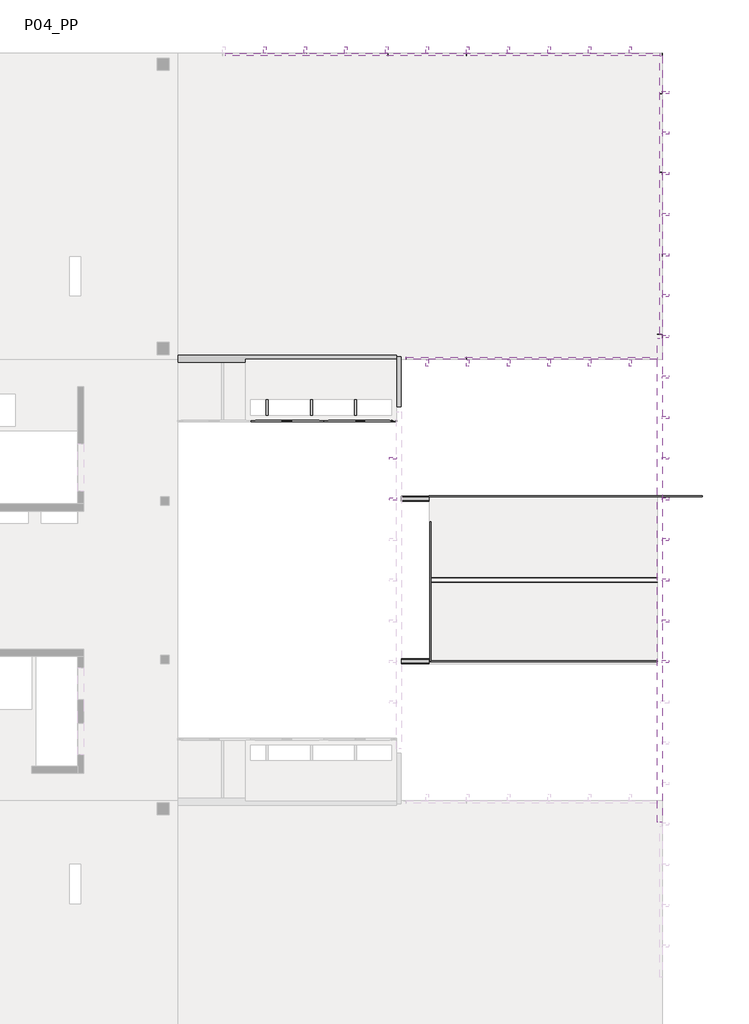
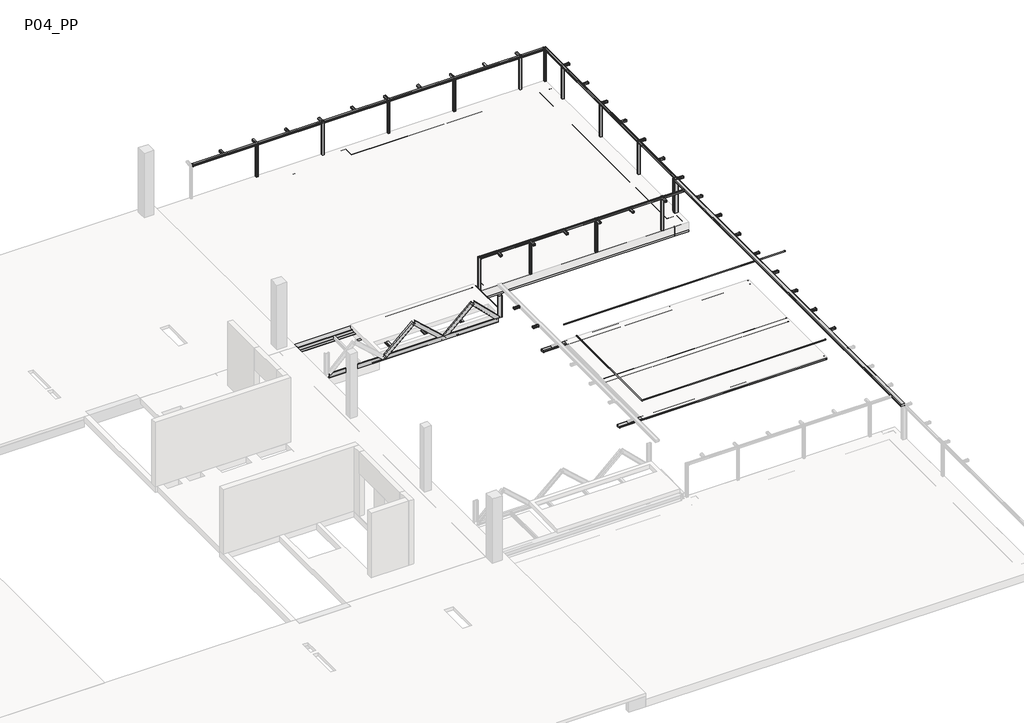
# One storey, part 5 of 5: 69 beams, 15 columns, 2 railings.
"""IFC4 building model written with IfcOpenShell, lengths in millimetres."""

from ifc_helpers import new_model, si_unit, point, frame, frame_2d, origin, place, context, project, spatial, circle_curve, ellipse_curve, trimmed, segment, composite_curve, outline, extrude, faceted_brep, transform, mapped, element, save
from ifc_brep_helpers import plane_surface, cylinder_surface, advanced_brep
from components import m_hss_rectangular_hss_100x100_a3211d21, m_hss_rectangular_hss_100x100_d88e7f3c, m_hss_rectangular_hss_100x100_c8b4e19b, m_hss_rectangular_hss_100x100_4e9eaf21, m_hss_rectangular_hss_100x100_2c025c62, m_hss_rectangular_hss_100x100_e4ef8ecd, m_hss_rectangular_hss_100x100_1dc630a9, m_hss_rectangular_hss_100x100_2ae9bc1b, m_hss_rectangular_hss_100x100_087ac0b1, m_hss_rectangular_hss_100x100_c4b29c07, m_hss_rectangular_hss_100x100_851711bd, m_hss_rectangular_hss_100x100_b606dcef, m_hss_rectangular_hss_100x100_54f2d0bd, m_hss_rectangular_hss_100x100_b3e0954c, m_hss_rectangular_hss_100x100_7ce8fc2e, m_hss_rectangular_hss_100x100_bf6b89f8, m_hss_rectangular_hss_200x100_f20de42e, m_hss_rectangular_hss_200x100_629e55c8, m_hss_rectangular_hss_200x100_783a5962, ub_universal_beams_heb300x300_a0430d8c, ub_universal_beams_ipe_160x82_39eb89cc, ub_universal_beams_ipe300x150_dde0b0ef, upn200x75_f16fdd2e, upn200x75_1c3169bc, upn200x75_e9c3a9f1, upn200x75_de95b273, rhs_rectangular_hollow_section_column_100x100x5_0rhs_4e292c9f, rhs_rectangular_hollow_section_column_200x150x5_0rhs_70543165, upn_200x75_6a680606

model = new_model("IFC4")

# Units and contexts
model_context = context("Model", 3, world=origin())
ifc_project = project(units=[si_unit("LENGTHUNIT", "METRE", prefix="MILLI")], contexts=[model_context])

# Site, building, storey
site = spatial("IfcSite", under=ifc_project)
building = spatial("IfcBuilding", under=site)
storey = spatial("IfcBuildingStorey", under=building, Name="P04_PP", Elevation=22410.0)

# Beams
placement = place(None, origin())
element("IfcBeam", 1, ObjectType="M_Concrete-Rectangular Beam : 700 x 500mm", at=placement, inside=storey, context=model_context, shape_type="Brep", body=[
    faceted_brep([(6733.8155464, 25889.413725, 22110.0), (6733.8155462, 25389.4144807, 22110.0), (16258.7685871, 25389.4144807, 22110.0), (16258.7685867, 25889.4122574, 22110.0), (16758.7685867, 25889.4122577, 22110.0), (16758.7685871, 25389.4144807, 22110.0), (16958.7687141, 25389.4144807, 22110.0), (16958.7687141, 26089.4144807, 22110.0), (-2913.6636999, 26089.4144807, 22110.0), (-3763.6636999, 26089.4144807, 22110.0), (-3816.6337142, 26089.4144807, 22110.0), (-3816.6337142, 25889.4136759, 22110.0), (-3266.6337144, 25889.4136766, 22110.0), (-3266.6337138, 25389.4144807, 22110.0), (-2913.6636999, 25389.4144807, 22110.0), (6233.8155462, 25389.4144807, 22110.0), (6233.8155464, 25889.4137252, 22110.0), (-3816.6337142, 26089.4144807, 21610.0), (-3816.6337142, 26089.4144807, 21860.0), (16958.7687141, 26089.4144807, 21610.0), (6733.8155462, 25389.4144807, 21610.0), (6733.8155464, 25889.413725, 21610.0), (6233.8155464, 25889.4137252, 21610.0), (6233.8155462, 25389.4144807, 21610.0), (-3266.6337138, 25389.4144807, 21610.0), (-3266.6337144, 25889.4136766, 21610.0), (-3816.6337142, 25889.4136759, 21610.0), (16958.7687141, 25389.4144807, 21610.0), (16758.7685871, 25389.4144807, 21610.0), (16758.7685867, 25889.4122577, 21610.0), (16258.7685867, 25889.4122574, 21610.0), (16258.7685871, 25389.4144807, 21610.0), (-3266.6337138, 25389.4144807, 21710.0)], [[[0, 1, 2, 3, 4, 5, 6, 7, 8, 9, 10, 11, 12, 13, 14, 15, 16]], [[17, 18, 10, 9, 8, 7, 19]], [[20, 21, 22, 23, 24, 25, 26, 17, 19, 27, 28, 29, 30, 31]], [[23, 15, 14, 13, 32, 24]], [[21, 20, 1, 0]], [[23, 22, 16, 15]], [[31, 30, 3, 2]], [[16, 22, 21, 0]], [[3, 30, 29, 4]], [[1, 20, 31, 2]], [[12, 25, 24, 32, 13]], [[25, 12, 11, 26]], [[10, 18, 17, 26, 11]], [[7, 6, 27, 19]], [[4, 29, 28, 5]], [[27, 6, 5, 28]]]),
])
element("IfcBeam", 2, ObjectType="M_Concrete-Rectangular Beam : 700 x 500mm", at=placement, inside=storey, context=model_context, shape_type="Brep", body=[
    faceted_brep([(16258.7687141, 14239.3933939, 22110.0), (16758.7686977, 14239.3933936, 22110.0), (16758.7686974, 13739.3933936, 22110.0), (16258.7687141, 13739.3933939, 22110.0), (16258.7687141, 13539.4134441, 22110.0), (16958.7687141, 13539.4134441, 22110.0), (16958.7687141, 25389.4144807, 22110.0), (16758.7685871, 25389.4138454, 22110.0), (16258.7687141, 25389.4122574, 22110.0), (16958.7687141, 13539.4134441, 21610.0), (16958.7687141, 25389.4144807, 21610.0), (16758.7686977, 14239.3933936, 21610.0), (16258.7687141, 14239.3933939, 21610.0), (16258.7687141, 25389.4122574, 21610.0), (16758.7685871, 25389.4138454, 21610.0), (16258.7687141, 13539.4134441, 21610.0), (16258.7687141, 13739.3933939, 21610.0), (16758.7686974, 13739.3933936, 21610.0)], [[[0, 1, 2, 3, 4, 5, 6, 7, 8]], [[5, 9, 10, 6]], [[11, 12, 13, 14, 10, 9, 15, 16, 17]], [[15, 4, 3, 16]], [[12, 11, 1, 0]], [[13, 8, 7, 6, 10, 14]], [[1, 11, 17, 2]], [[5, 4, 15, 9]], [[2, 17, 16, 3]], [[12, 0, 8, 13]]]),
])
element("IfcBeam", 3, ObjectType="M_Concrete-Rectangular Beam : 700 x 500mm", at=placement, inside=storey, context=model_context, shape_type="Brep", body=[
    faceted_brep([(-2913.6343046, 14239.4134441, 22110.0), (-2913.6343046, 13539.4134441, 22110.0), (16258.7687141, 13539.4134441, 22110.0), (16258.7687094, 13739.3933939, 22110.0), (16258.7686977, 14239.4134441, 22110.0), (6758.8308422, 14239.4134441, 22110.0), (6758.8308423, 13739.3949055, 22110.0), (6258.8308423, 13739.3949054, 22110.0), (6258.8308422, 14239.4134441, 22110.0), (6258.8308422, 14239.4134441, 21610.0), (-3266.6337035, 14239.4134441, 21610.0), (-3266.6337035, 14239.4134441, 21710.0), (-3266.6337035, 14239.4134441, 21860.0), (-2913.6343046, 14239.4134441, 21860.0), (6758.8308423, 13739.3949055, 21610.0), (6758.8308422, 14239.4134441, 21610.0), (16258.7686977, 14239.4134441, 21610.0), (16258.7687094, 13739.3933939, 21610.0), (16258.7687141, 13539.4134441, 21610.0), (-3816.633703, 13539.4134441, 21610.0), (-3816.633703, 13714.4124942, 21610.0), (-3266.6337027, 13714.412495, 21610.0), (6258.8308423, 13739.3949054, 21610.0), (-2913.6343046, 13539.4134441, 21860.0), (-3816.633703, 13539.4134441, 21860.0), (-3266.6337027, 13714.412495, 21860.0), (-3816.633703, 13714.4124942, 21860.0)], [[[0, 1, 2, 3, 4, 5, 6, 7, 8]], [[8, 9, 10, 11, 12, 13, 0]], [[14, 15, 16, 17, 18, 19, 20, 21, 10, 9, 22]], [[1, 23, 24, 19, 18, 2]], [[15, 14, 6, 5]], [[22, 9, 8, 7]], [[16, 4, 3, 2, 18, 17]], [[6, 14, 22, 7]], [[1, 0, 13, 23]], [[15, 5, 4, 16]], [[23, 13, 12, 25, 26, 24]], [[21, 25, 12, 11, 10]], [[25, 21, 20, 26]], [[19, 24, 26, 20]]]),
])
m_hss_rectangular_hss_100x100_shape = m_hss_rectangular_hss_100x100_a3211d21(model_context)
element("IfcBeam", 4, ObjectType="M_HSS Rectangular : HSS 100x100", at=placement, inside=storey, context=model_context, shape_type="MappedRepresentation", body=[
    mapped(m_hss_rectangular_hss_100x100_shape, transform((16908.7645912, 20264.3484018, 23860.0), x_axis=(-3.676252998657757e-07, 0.9999999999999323, 0.0), y_axis=(-0.9999999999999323, -3.676252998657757e-07, 0.0), z_axis=(0.0, 0.0, 1.0))),
])
m_hss_rectangular_hss_100x100_2_shape = m_hss_rectangular_hss_100x100_d88e7f3c(model_context)
element("IfcBeam", 5, ObjectType="M_HSS Rectangular : HSS 100x100", at=placement, inside=storey, context=model_context, shape_type="MappedRepresentation", body=[
    mapped(m_hss_rectangular_hss_100x100_2_shape, transform((7946.7216588, 26039.4146148, 23860.0), x_axis=(0.9999999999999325, -3.676253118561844e-07, 0.0), y_axis=(3.676253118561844e-07, 0.9999999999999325, 0.0), z_axis=(0.0, 0.0, 1.0))),
])
m_hss_rectangular_hss_100x100_3_shape = m_hss_rectangular_hss_100x100_c8b4e19b(model_context)
element("IfcBeam", 6, ObjectType="M_HSS Rectangular : HSS 100x100", at=placement, inside=storey, context=model_context, shape_type="MappedRepresentation", body=[
    mapped(m_hss_rectangular_hss_100x100_3_shape, transform((11573.24324, 13589.4187651, 23860.0), x_axis=(0.9999999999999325, -3.676253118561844e-07, 0.0), y_axis=(3.676253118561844e-07, 0.9999999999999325, 0.0), z_axis=(0.0, 0.0, 1.0))),
])
m_hss_rectangular_hss_100x100_4_shape = m_hss_rectangular_hss_100x100_4e9eaf21(model_context)
element("IfcBeam", 7, ObjectType="M_HSS Rectangular : HSS 100x100", at=placement, inside=storey, context=model_context, shape_type="MappedRepresentation", body=[
    mapped(m_hss_rectangular_hss_100x100_4_shape, transform((17073.765384, 24489.4109233, 23860.0), x_axis=(1.0, -1.2790382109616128e-09, 0.0), y_axis=(1.2790382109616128e-09, 1.0, 0.0), z_axis=(0.0, 0.0, 1.0))),
])
element("IfcBeam", 8, ObjectType="M_HSS Rectangular : HSS 100x100", at=placement, inside=storey, context=model_context, shape_type="MappedRepresentation", body=[
    mapped(m_hss_rectangular_hss_100x100_4_shape, transform((17073.765384, 17822.62335, 23860.0), x_axis=(1.0, -1.2790382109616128e-09, 0.0), y_axis=(1.2790382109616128e-09, 1.0, 0.0), z_axis=(0.0, 0.0, 1.0))),
])
element("IfcBeam", 9, ObjectType="M_HSS Rectangular : HSS 100x100", at=placement, inside=storey, context=model_context, shape_type="MappedRepresentation", body=[
    mapped(m_hss_rectangular_hss_100x100_4_shape, transform((17073.765384, 21156.0171366, 23860.0), x_axis=(1.0, -1.2790382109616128e-09, 0.0), y_axis=(1.2790382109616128e-09, 1.0, 0.0), z_axis=(0.0, 0.0, 1.0))),
])
element("IfcBeam", 10, ObjectType="M_HSS Rectangular : HSS 100x100", at=placement, inside=storey, context=model_context, shape_type="MappedRepresentation", body=[
    mapped(m_hss_rectangular_hss_100x100_4_shape, transform((17073.765384, 14489.2295633, 23860.0), x_axis=(1.0, -1.2790382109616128e-09, 0.0), y_axis=(1.2790382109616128e-09, 1.0, 0.0), z_axis=(0.0, 0.0, 1.0))),
])
m_hss_rectangular_hss_100x100_5_shape = m_hss_rectangular_hss_100x100_2c025c62(model_context)
element("IfcBeam", 11, ObjectType="M_HSS Rectangular : HSS 100x100", at=placement, inside=storey, context=model_context, shape_type="MappedRepresentation", body=[
    mapped(m_hss_rectangular_hss_100x100_5_shape, transform((17073.765384, 16155.9264566, 23860.0), x_axis=(1.0, -1.2790382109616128e-09, 0.0), y_axis=(1.2790382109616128e-09, 1.0, 0.0), z_axis=(0.0, 0.0, 1.0))),
])
element("IfcBeam", 12, ObjectType="M_HSS Rectangular : HSS 100x100", at=placement, inside=storey, context=model_context, shape_type="MappedRepresentation", body=[
    mapped(m_hss_rectangular_hss_100x100_4_shape, transform((17073.765384, 19489.3202433, 23860.0), x_axis=(1.0, -1.2790382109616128e-09, 0.0), y_axis=(1.2790382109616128e-09, 1.0, 0.0), z_axis=(0.0, 0.0, 1.0))),
])
element("IfcBeam", 13, ObjectType="M_HSS Rectangular : HSS 100x100", at=placement, inside=storey, context=model_context, shape_type="MappedRepresentation", body=[
    mapped(m_hss_rectangular_hss_100x100_4_shape, transform((17073.765384, 22822.71403, 23860.0), x_axis=(1.0, -1.2790382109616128e-09, 0.0), y_axis=(1.2790382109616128e-09, 1.0, 0.0), z_axis=(0.0, 0.0, 1.0))),
])
m_hss_rectangular_hss_100x100_6_shape = m_hss_rectangular_hss_100x100_e4ef8ecd(model_context)
element("IfcBeam", 14, ObjectType="M_HSS Rectangular : HSS 100x100", at=placement, inside=storey, context=model_context, shape_type="MappedRepresentation", body=[
    mapped(m_hss_rectangular_hss_100x100_6_shape, transform((17098.6931887, 2822.3513099, 23860.0), x_axis=(1.0, -1.2790382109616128e-09, 0.0), y_axis=(1.2790382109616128e-09, 1.0, 0.0), z_axis=(0.0, 0.0, 1.0))),
])
m_hss_rectangular_hss_100x100_7_shape = m_hss_rectangular_hss_100x100_1dc630a9(model_context)
element("IfcBeam", 15, ObjectType="M_HSS Rectangular : HSS 100x100", at=placement, inside=storey, context=model_context, shape_type="MappedRepresentation", body=[
    mapped(m_hss_rectangular_hss_100x100_7_shape, transform((17098.6635451, 6155.7450966, 23860.0), x_axis=(1.0, -1.2790382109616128e-09, 0.0), y_axis=(1.2790382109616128e-09, 1.0, 0.0), z_axis=(0.0, 0.0, 1.0))),
])
element("IfcBeam", 16, ObjectType="M_HSS Rectangular : HSS 100x100", at=placement, inside=storey, context=model_context, shape_type="MappedRepresentation", body=[
    mapped(m_hss_rectangular_hss_100x100_7_shape, transform((17098.6339016, 9489.1388833, 23860.0), x_axis=(1.0, -1.2790382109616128e-09, 0.0), y_axis=(1.2790382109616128e-09, 1.0, 0.0), z_axis=(0.0, 0.0, 1.0))),
])
m_hss_rectangular_hss_100x100_8_shape = m_hss_rectangular_hss_100x100_2ae9bc1b(model_context)
element("IfcBeam", 17, ObjectType="M_HSS Rectangular : HSS 100x100", at=placement, inside=storey, context=model_context, shape_type="MappedRepresentation", body=[
    mapped(m_hss_rectangular_hss_100x100_8_shape, transform((17098.604258, 12822.5326699, 23860.0), x_axis=(1.0, -1.2790382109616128e-09, 0.0), y_axis=(1.2790382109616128e-09, 1.0, 0.0), z_axis=(0.0, 0.0, 1.0))),
])
element("IfcBeam", 18, ObjectType="M_HSS Rectangular : HSS 100x100", at=placement, inside=storey, context=model_context, shape_type="MappedRepresentation", body=[
    mapped(m_hss_rectangular_hss_100x100_4_shape, transform((15651.3929722, 26204.41325, 23860.0), x_axis=(1.2959202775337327e-06, 0.9999999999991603, 0.0), y_axis=(-0.9999999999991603, 1.2959202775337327e-06, 0.0), z_axis=(0.0, 0.0, 1.0))),
])
element("IfcBeam", 19, ObjectType="M_HSS Rectangular : HSS 100x100", at=placement, inside=storey, context=model_context, shape_type="MappedRepresentation", body=[
    mapped(m_hss_rectangular_hss_100x100_4_shape, transform((12318.0506883, 26204.41325, 23860.0), x_axis=(1.2959202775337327e-06, 0.9999999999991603, 0.0), y_axis=(-0.9999999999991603, 1.2959202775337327e-06, 0.0), z_axis=(0.0, 0.0, 1.0))),
])
element("IfcBeam", 20, ObjectType="M_HSS Rectangular : HSS 100x100", at=placement, inside=storey, context=model_context, shape_type="MappedRepresentation", body=[
    mapped(m_hss_rectangular_hss_100x100_4_shape, transform((8984.7084045, 26204.41325, 23860.0), x_axis=(1.2959202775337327e-06, 0.9999999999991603, 0.0), y_axis=(-0.9999999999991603, 1.2959202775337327e-06, 0.0), z_axis=(0.0, 0.0, 1.0))),
])
element("IfcBeam", 21, ObjectType="M_HSS Rectangular : HSS 100x100", at=placement, inside=storey, context=model_context, shape_type="MappedRepresentation", body=[
    mapped(m_hss_rectangular_hss_100x100_4_shape, transform((5651.3661206, 26204.41325, 23860.0), x_axis=(1.2959202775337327e-06, 0.9999999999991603, 0.0), y_axis=(-0.9999999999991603, 1.2959202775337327e-06, 0.0), z_axis=(0.0, 0.0, 1.0))),
])
element("IfcBeam", 22, ObjectType="M_HSS Rectangular : HSS 100x100", at=placement, inside=storey, context=model_context, shape_type="MappedRepresentation", body=[
    mapped(m_hss_rectangular_hss_100x100_4_shape, transform((13984.7218302, 26204.41325, 23860.0), x_axis=(1.2959202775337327e-06, 0.9999999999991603, 0.0), y_axis=(-0.9999999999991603, 1.2959202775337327e-06, 0.0), z_axis=(0.0, 0.0, 1.0))),
])
element("IfcBeam", 23, ObjectType="M_HSS Rectangular : HSS 100x100", at=placement, inside=storey, context=model_context, shape_type="MappedRepresentation", body=[
    mapped(m_hss_rectangular_hss_100x100_5_shape, transform((10651.3795464, 26204.41325, 23860.0), x_axis=(1.2959202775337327e-06, 0.9999999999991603, 0.0), y_axis=(-0.9999999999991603, 1.2959202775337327e-06, 0.0), z_axis=(0.0, 0.0, 1.0))),
])
element("IfcBeam", 24, ObjectType="M_HSS Rectangular : HSS 100x100", at=placement, inside=storey, context=model_context, shape_type="MappedRepresentation", body=[
    mapped(m_hss_rectangular_hss_100x100_5_shape, transform((7318.0372626, 26204.41325, 23860.0), x_axis=(1.2959202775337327e-06, 0.9999999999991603, 0.0), y_axis=(-0.9999999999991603, 1.2959202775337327e-06, 0.0), z_axis=(0.0, 0.0, 1.0))),
])
m_hss_rectangular_hss_100x100_9_shape = m_hss_rectangular_hss_100x100_087ac0b1(model_context)
element("IfcBeam", 25, ObjectType="M_HSS Rectangular : HSS 100x100", at=placement, inside=storey, context=model_context, shape_type="MappedRepresentation", body=[
    mapped(m_hss_rectangular_hss_100x100_9_shape, transform((651.3527273, 26229.4146772, 23860.0), x_axis=(1.2959202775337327e-06, 0.9999999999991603, 0.0), y_axis=(-0.9999999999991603, 1.2959202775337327e-06, 0.0), z_axis=(0.0, 0.0, 1.0))),
])
element("IfcBeam", 26, ObjectType="M_HSS Rectangular : HSS 100x100", at=placement, inside=storey, context=model_context, shape_type="MappedRepresentation", body=[
    mapped(m_hss_rectangular_hss_100x100_4_shape, transform((2318.0238368, 26204.4130969, 23860.0), x_axis=(1.2959202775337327e-06, 0.9999999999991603, 0.0), y_axis=(-0.9999999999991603, 1.2959202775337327e-06, 0.0), z_axis=(0.0, 0.0, 1.0))),
])
element("IfcBeam", 27, ObjectType="M_HSS Rectangular : HSS 100x100", at=placement, inside=storey, context=model_context, shape_type="MappedRepresentation", body=[
    mapped(m_hss_rectangular_hss_100x100_9_shape, transform((3984.6950111, 26229.4146772, 23860.0), x_axis=(1.2959202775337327e-06, 0.9999999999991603, 0.0), y_axis=(-0.9999999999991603, 1.2959202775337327e-06, 0.0), z_axis=(0.0, 0.0, 1.0))),
])
m_hss_rectangular_hss_100x100_10_shape = m_hss_rectangular_hss_100x100_c4b29c07(model_context)
element("IfcBeam", 28, ObjectType="M_HSS Rectangular : HSS 100x100", at=placement, inside=storey, context=model_context, shape_type="MappedRepresentation", body=[
    mapped(m_hss_rectangular_hss_100x100_10_shape, transform((15653.0129839, 13424.4154811, 23860.0), x_axis=(1.2790342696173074e-09, -1.0, 0.0), y_axis=(1.0, 1.2790342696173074e-09, 0.0), z_axis=(0.0, 0.0, 1.0))),
])
element("IfcBeam", 29, ObjectType="M_HSS Rectangular : HSS 100x100", at=placement, inside=storey, context=model_context, shape_type="MappedRepresentation", body=[
    mapped(m_hss_rectangular_hss_100x100_10_shape, transform((12319.0129838, 13424.4154811, 23860.0), x_axis=(1.2790342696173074e-09, -1.0, 0.0), y_axis=(1.0, 1.2790342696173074e-09, 0.0), z_axis=(0.0, 0.0, 1.0))),
])
element("IfcBeam", 30, ObjectType="M_HSS Rectangular : HSS 100x100", at=placement, inside=storey, context=model_context, shape_type="MappedRepresentation", body=[
    mapped(m_hss_rectangular_hss_100x100_10_shape, transform((8985.0129837, 13424.4154811, 23860.0), x_axis=(1.2790342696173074e-09, -1.0, 0.0), y_axis=(1.0, 1.2790342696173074e-09, 0.0), z_axis=(0.0, 0.0, 1.0))),
])
element("IfcBeam", 31, ObjectType="M_HSS Rectangular : HSS 100x100", at=placement, inside=storey, context=model_context, shape_type="MappedRepresentation", body=[
    mapped(m_hss_rectangular_hss_100x100_10_shape, transform((7318.0129836, 13424.4154811, 23860.0), x_axis=(1.2790342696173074e-09, -1.0, 0.0), y_axis=(1.0, 1.2790342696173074e-09, 0.0), z_axis=(0.0, 0.0, 1.0))),
])
element("IfcBeam", 32, ObjectType="M_HSS Rectangular : HSS 100x100", at=placement, inside=storey, context=model_context, shape_type="MappedRepresentation", body=[
    mapped(m_hss_rectangular_hss_100x100_10_shape, transform((13986.0129838, 13424.4154811, 23860.0), x_axis=(1.2790342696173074e-09, -1.0, 0.0), y_axis=(1.0, 1.2790342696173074e-09, 0.0), z_axis=(0.0, 0.0, 1.0))),
])
element("IfcBeam", 33, ObjectType="M_HSS Rectangular : HSS 100x100", at=placement, inside=storey, context=model_context, shape_type="MappedRepresentation", body=[
    mapped(m_hss_rectangular_hss_100x100_10_shape, transform((10652.0129837, 13424.4154811, 23860.0), x_axis=(1.2790342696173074e-09, -1.0, 0.0), y_axis=(1.0, 1.2790342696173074e-09, 0.0), z_axis=(0.0, 0.0, 1.0))),
])
m_hss_rectangular_hss_100x100_11_shape = m_hss_rectangular_hss_100x100_851711bd(model_context)
element("IfcBeam", 34, ObjectType="M_HSS Rectangular : HSS 100x100", at=placement, inside=storey, context=model_context, shape_type="MappedRepresentation", body=[
    mapped(m_hss_rectangular_hss_100x100_11_shape, transform((17098.6190798, 11155.8357766, 23860.0), x_axis=(1.0, -1.2790382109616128e-09, 0.0), y_axis=(1.2790382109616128e-09, 1.0, 0.0), z_axis=(0.0, 0.0, 1.0))),
])
element("IfcBeam", 35, ObjectType="M_HSS Rectangular : HSS 100x100", at=placement, inside=storey, context=model_context, shape_type="MappedRepresentation", body=[
    mapped(m_hss_rectangular_hss_100x100_11_shape, transform((17098.6487234, 7822.4419899, 23860.0), x_axis=(1.0, -1.2790382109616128e-09, 0.0), y_axis=(1.2790382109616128e-09, 1.0, 0.0), z_axis=(0.0, 0.0, 1.0))),
])
m_hss_rectangular_hss_100x100_12_shape = m_hss_rectangular_hss_100x100_b606dcef(model_context)
element("IfcBeam", 36, ObjectType="M_HSS Rectangular : HSS 100x100", at=placement, inside=storey, context=model_context, shape_type="MappedRepresentation", body=[
    mapped(m_hss_rectangular_hss_100x100_12_shape, transform((17098.6783669, 4489.0482033, 23860.0), x_axis=(1.0, -1.2790382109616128e-09, 0.0), y_axis=(1.2790382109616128e-09, 1.0, 0.0), z_axis=(0.0, 0.0, 1.0))),
])
element("IfcBeam", 37, ObjectType="M_HSS Rectangular : HSS 100x100", at=placement, inside=storey, context=model_context, shape_type="MappedRepresentation", body=[
    mapped(m_hss_rectangular_hss_100x100_12_shape, transform((17098.7080105, 1155.6544166, 23860.0), x_axis=(1.0, -1.2790382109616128e-09, 0.0), y_axis=(1.2790382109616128e-09, 1.0, 0.0), z_axis=(0.0, 0.0, 1.0))),
])
m_hss_rectangular_hss_100x100_13_shape = m_hss_rectangular_hss_100x100_54f2d0bd(model_context)
element("IfcBeam", 38, ObjectType="M_HSS Rectangular : HSS 100x100", at=placement, inside=storey, context=model_context, shape_type="MappedRepresentation", body=[
    mapped(m_hss_rectangular_hss_100x100_13_shape, transform((5968.4880893, 7822.4419895, 23860.0), x_axis=(1.0, -1.2790382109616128e-09, 0.0), y_axis=(1.2790382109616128e-09, 1.0, 0.0), z_axis=(0.0, 0.0, 1.0))),
])
m_hss_rectangular_hss_100x100_14_shape = m_hss_rectangular_hss_100x100_b3e0954c(model_context)
element("IfcBeam", 39, ObjectType="M_HSS Rectangular : HSS 100x100", at=placement, inside=storey, context=model_context, shape_type="MappedRepresentation", body=[
    mapped(m_hss_rectangular_hss_100x100_14_shape, transform((5918.3383135, 9489.1388829, 23860.0), x_axis=(1.0, -1.2790382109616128e-09, 0.0), y_axis=(1.2790382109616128e-09, 1.0, 0.0), z_axis=(0.0, 0.0, 1.0))),
])
m_hss_rectangular_hss_100x100_15_shape = m_hss_rectangular_hss_100x100_7ce8fc2e(model_context)
element("IfcBeam", 40, ObjectType="M_HSS Rectangular : HSS 100x100", at=placement, inside=storey, context=model_context, shape_type="MappedRepresentation", body=[
    mapped(m_hss_rectangular_hss_100x100_15_shape, transform((15681.5019921, 6166.2508155, 22380.0), x_axis=(-5.948516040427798e-09, -1.0, 0.0), y_axis=(1.0, -5.948516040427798e-09, 0.0), z_axis=(0.0, 0.0, 1.0))),
])
m_hss_rectangular_hss_100x100_16_shape = m_hss_rectangular_hss_100x100_bf6b89f8(model_context)
element("IfcBeam", 41, ObjectType="M_HSS Rectangular : HSS 100x100", at=placement, inside=storey, context=model_context, shape_type="MappedRepresentation", body=[
    mapped(m_hss_rectangular_hss_100x100_16_shape, transform((15681.5019722, 2832.8508148, 22380.0), x_axis=(-5.948515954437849e-09, -1.0, 0.0), y_axis=(1.0, -5.948515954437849e-09, 0.0), z_axis=(0.0, 0.0, 1.0))),
])
element("IfcBeam", 42, ObjectType="M_HSS Rectangular : HSS 100x100", at=placement, inside=storey, context=model_context, shape_type="MappedRepresentation", body=[
    mapped(m_hss_rectangular_hss_100x100_16_shape, transform((14653.7720199, 2832.8508173, 22380.0), x_axis=(-5.948515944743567e-09, -1.0, 0.0), y_axis=(1.0, -5.948515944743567e-09, 0.0), z_axis=(0.0, 0.0, 1.0))),
])
element("IfcBeam", 43, ObjectType="M_HSS Rectangular : HSS 100x100", at=placement, inside=storey, context=model_context, shape_type="MappedRepresentation", body=[
    mapped(m_hss_rectangular_hss_100x100_16_shape, transform((13626.0420669, 2832.8508199, 22380.0), x_axis=(-5.948515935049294e-09, -1.0, 0.0), y_axis=(1.0, -5.948515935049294e-09, 0.0), z_axis=(0.0, 0.0, 1.0))),
])
element("IfcBeam", 44, ObjectType="M_HSS Rectangular : HSS 100x100", at=placement, inside=storey, context=model_context, shape_type="MappedRepresentation", body=[
    mapped(m_hss_rectangular_hss_100x100_16_shape, transform((12598.312114, 2832.8508224, 22380.0), x_axis=(-5.9485159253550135e-09, -1.0, 0.0), y_axis=(1.0, -5.9485159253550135e-09, 0.0), z_axis=(0.0, 0.0, 1.0))),
])
element("IfcBeam", 45, ObjectType="M_HSS Rectangular : HSS 100x100", at=placement, inside=storey, context=model_context, shape_type="MappedRepresentation", body=[
    mapped(m_hss_rectangular_hss_100x100_16_shape, transform((11570.582161, 2832.850825, 22380.0), x_axis=(-5.948515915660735e-09, -1.0, 0.0), y_axis=(1.0, -5.948515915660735e-09, 0.0), z_axis=(0.0, 0.0, 1.0))),
])
element("IfcBeam", 46, ObjectType="M_HSS Rectangular : HSS 100x100", at=placement, inside=storey, context=model_context, shape_type="MappedRepresentation", body=[
    mapped(m_hss_rectangular_hss_100x100_16_shape, transform((10542.8522081, 2832.8508275, 22380.0), x_axis=(-5.94851590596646e-09, -1.0, 0.0), y_axis=(1.0, -5.94851590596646e-09, 0.0), z_axis=(0.0, 0.0, 1.0))),
])
element("IfcBeam", 47, ObjectType="M_HSS Rectangular : HSS 100x100", at=placement, inside=storey, context=model_context, shape_type="MappedRepresentation", body=[
    mapped(m_hss_rectangular_hss_100x100_16_shape, transform((9515.1222551, 2832.8508301, 22380.0), x_axis=(-5.948516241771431e-09, -1.0, 0.0), y_axis=(1.0, -5.948516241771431e-09, 0.0), z_axis=(0.0, 0.0, 1.0))),
])
element("IfcBeam", 48, ObjectType="M_HSS Rectangular : HSS 100x100", at=placement, inside=storey, context=model_context, shape_type="MappedRepresentation", body=[
    mapped(m_hss_rectangular_hss_100x100_16_shape, transform((8487.3923022, 2832.8508326, 22380.0), x_axis=(-5.948516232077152e-09, -1.0, 0.0), y_axis=(1.0, -5.948516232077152e-09, 0.0), z_axis=(0.0, 0.0, 1.0))),
])
element("IfcBeam", 49, ObjectType="M_HSS Rectangular : HSS 100x100", at=placement, inside=storey, context=model_context, shape_type="MappedRepresentation", body=[
    mapped(m_hss_rectangular_hss_100x100_15_shape, transform((14653.7720397, 6166.2508206, 22380.0), x_axis=(-5.9485160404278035e-09, -1.0, 0.0), y_axis=(1.0, -5.9485160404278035e-09, 0.0), z_axis=(0.0, 0.0, 1.0))),
])
element("IfcBeam", 50, ObjectType="M_HSS Rectangular : HSS 100x100", at=placement, inside=storey, context=model_context, shape_type="MappedRepresentation", body=[
    mapped(m_hss_rectangular_hss_100x100_15_shape, transform((13626.0420868, 6166.2508257, 22380.0), x_axis=(-5.948516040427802e-09, -1.0, 0.0), y_axis=(1.0, -5.948516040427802e-09, 0.0), z_axis=(0.0, 0.0, 1.0))),
])
element("IfcBeam", 51, ObjectType="M_HSS Rectangular : HSS 100x100", at=placement, inside=storey, context=model_context, shape_type="MappedRepresentation", body=[
    mapped(m_hss_rectangular_hss_100x100_15_shape, transform((12598.3121338, 6166.2508308, 22380.0), x_axis=(-5.948516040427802e-09, -1.0, 0.0), y_axis=(1.0, -5.948516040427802e-09, 0.0), z_axis=(0.0, 0.0, 1.0))),
])
element("IfcBeam", 52, ObjectType="M_HSS Rectangular : HSS 100x100", at=placement, inside=storey, context=model_context, shape_type="MappedRepresentation", body=[
    mapped(m_hss_rectangular_hss_100x100_15_shape, transform((11570.5821809, 6166.250836, 22380.0), x_axis=(-5.948516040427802e-09, -1.0, 0.0), y_axis=(1.0, -5.948516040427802e-09, 0.0), z_axis=(0.0, 0.0, 1.0))),
])
element("IfcBeam", 53, ObjectType="M_HSS Rectangular : HSS 100x100", at=placement, inside=storey, context=model_context, shape_type="MappedRepresentation", body=[
    mapped(m_hss_rectangular_hss_100x100_15_shape, transform((10542.8522279, 6166.2508411, 22380.0), x_axis=(-5.948516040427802e-09, -1.0, 0.0), y_axis=(1.0, -5.948516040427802e-09, 0.0), z_axis=(0.0, 0.0, 1.0))),
])
element("IfcBeam", 54, ObjectType="M_HSS Rectangular : HSS 100x100", at=placement, inside=storey, context=model_context, shape_type="MappedRepresentation", body=[
    mapped(m_hss_rectangular_hss_100x100_15_shape, transform((9515.1222749, 6166.2508462, 22380.0), x_axis=(-5.948515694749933e-09, -1.0, 0.0), y_axis=(1.0, -5.948515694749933e-09, 0.0), z_axis=(0.0, 0.0, 1.0))),
])
element("IfcBeam", 55, ObjectType="M_HSS Rectangular : HSS 100x100", at=placement, inside=storey, context=model_context, shape_type="MappedRepresentation", body=[
    mapped(m_hss_rectangular_hss_100x100_15_shape, transform((8487.392322, 6166.2508513, 22380.0), x_axis=(-5.9485163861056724e-09, -1.0, 0.0), y_axis=(1.0, -5.9485163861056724e-09, 0.0), z_axis=(0.0, 0.0, 1.0))),
])
m_hss_rectangular_hss_200x100_shape = m_hss_rectangular_hss_200x100_f20de42e(model_context)
element("IfcBeam", 56, ObjectType="M_HSS Rectangular : HSS 200x100", at=placement, inside=storey, context=model_context, shape_type="MappedRepresentation", body=[
    mapped(m_hss_rectangular_hss_200x100_shape, transform((16858.5890025, 4489.0854828, 23860.0), x_axis=(1.778582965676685e-05, -0.999999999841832, 0.0), y_axis=(0.0, 0.0, -1.0), z_axis=(0.999999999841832, 1.778582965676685e-05, 0.0))),
])
m_hss_rectangular_hss_200x100_2_shape = m_hss_rectangular_hss_200x100_629e55c8(model_context)
element("IfcBeam", 57, ObjectType="M_HSS Rectangular : HSS 200x100", at=placement, inside=storey, context=model_context, shape_type="MappedRepresentation", body=[
    mapped(m_hss_rectangular_hss_200x100_2_shape, transform((11508.5357073, 1165.7459671, 22430.0), x_axis=(-1.0, 4.970000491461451e-09, 0.0), y_axis=(0.0, 0.0, -1.0), z_axis=(-4.970000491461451e-09, -1.0, 0.0))),
])
element("IfcBeam", 58, ObjectType="M_HSS Rectangular : HSS 200x100", at=placement, inside=storey, context=model_context, shape_type="MappedRepresentation", body=[
    mapped(m_hss_rectangular_hss_200x100_2_shape, transform((11508.5357073, 7832.5459686, 22430.0), x_axis=(-1.0, 4.970000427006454e-09, 0.0), y_axis=(0.0, 0.0, -1.0), z_axis=(-4.970000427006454e-09, -1.0, 0.0))),
])
m_hss_rectangular_hss_200x100_3_shape = m_hss_rectangular_hss_200x100_783a5962(model_context)
element("IfcBeam", 59, ObjectType="M_HSS Rectangular : HSS 200x100", at=placement, inside=storey, context=model_context, shape_type="MappedRepresentation", body=[
    mapped(m_hss_rectangular_hss_200x100_3_shape, transform((12134.155235, 4499.9557008, 22430.0), x_axis=(-1.0, 4.970000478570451e-09, 0.0), y_axis=(0.0, 0.0, -1.0), z_axis=(-4.970000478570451e-09, -1.0, 0.0))),
])
ub_universal_beams_heb300x300_shape = ub_universal_beams_heb300x300_a0430d8c(model_context)
element("IfcBeam", 60, ObjectType="UB-Universal Beams : HEB300x300", at=placement, inside=storey, context=model_context, shape_type="MappedRepresentation", body=[
    mapped(ub_universal_beams_heb300x300_shape, transform((1360.0966728, 13569.4134441, 22260.0), x_axis=(-1.0, 0.0, 0.0), y_axis=(0.0, -1.0, 0.0), z_axis=(0.0, 0.0, 1.0))),
])
ub_universal_beams_ipe_160x82_shape = ub_universal_beams_ipe_160x82_39eb89cc(model_context)
element("IfcBeam", 61, ObjectType="UB-Universal Beams : IPE 160x82", at=placement, inside=storey, context=model_context, shape_type="MappedRepresentation", body=[
    mapped(ub_universal_beams_ipe_160x82_shape, transform((748.7433116, 12312.0186516, 22330.0), x_axis=(3.4990648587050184e-06, -0.9999999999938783, 0.0), y_axis=(0.9999999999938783, 3.4990648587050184e-06, 0.0), z_axis=(0.0, 0.0, 1.0))),
])
element("IfcBeam", 62, ObjectType="UB-Universal Beams : IPE 160x82", at=placement, inside=storey, context=model_context, shape_type="MappedRepresentation", body=[
    mapped(ub_universal_beams_ipe_160x82_shape, transform((2565.2255424, 12312.0186227, 22330.0), x_axis=(3.498900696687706e-06, -0.9999999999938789, 0.0), y_axis=(0.9999999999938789, 3.498900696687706e-06, 0.0), z_axis=(0.0, 0.0, 1.0))),
])
element("IfcBeam", 63, ObjectType="UB-Universal Beams : IPE 160x82", at=placement, inside=storey, context=model_context, shape_type="MappedRepresentation", body=[
    mapped(ub_universal_beams_ipe_160x82_shape, transform((4381.7077724, 12312.0185939, 22330.0), x_axis=(3.499229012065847e-06, -0.9999999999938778, 0.0), y_axis=(0.9999999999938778, 3.499229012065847e-06, 0.0), z_axis=(0.0, 0.0, 1.0))),
])
ub_universal_beams_ipe300x150_shape = ub_universal_beams_ipe300x150_dde0b0ef(model_context)
element("IfcBeam", 64, ObjectType="UB-Universal Beams : IPE300x150", at=placement, inside=storey, context=model_context, shape_type="MappedRepresentation", body=[
    mapped(ub_universal_beams_ipe300x150_shape, transform((6163.8308521, 12618.1777598, 22260.0), x_axis=(0.0, 1.0, 0.0), y_axis=(-1.0, 0.0, 0.0), z_axis=(0.0, 0.0, 1.0))),
])
upn200x75_shape = upn200x75_f16fdd2e(model_context)
element("IfcBeam", 65, ObjectType="M_MC Shapes : UPN200x75", at=placement, inside=storey, context=model_context, shape_type="MappedRepresentation", body=[
    mapped(upn200x75_shape, transform((5240.2727767, 10990.523936, 23005.5070049), x_axis=(0.7135639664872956, 1.1791230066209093e-08, -0.7005900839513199), y_axis=(1.652441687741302e-08, -0.9999999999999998, 0.0), z_axis=(-0.7005900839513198, -1.1576840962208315e-08, -0.7135639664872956))),
])
upn200x75_2_shape = upn200x75_1c3169bc(model_context)
element("IfcBeam", 66, ObjectType="M_MC Shapes : UPN200x75", at=placement, inside=storey, context=model_context, shape_type="MappedRepresentation", body=[
    mapped(upn200x75_2_shape, transform((823.6595344, 10990.5239317, 22985.0000184), x_axis=(-0.743294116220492, 1.1576578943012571e-08, -0.6689647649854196), y_axis=(1.5574696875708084e-08, 0.9999999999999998, 0.0), z_axis=(0.6689647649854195, -1.041892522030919e-08, -0.743294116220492))),
])
element("IfcBeam", 67, ObjectType="M_MC Shapes : UPN200x75", at=placement, inside=storey, context=model_context, shape_type="MappedRepresentation", body=[
    mapped(upn200x75_2_shape, transform((3823.6595069, 10990.5239332, 22985.0000184), x_axis=(-0.7432941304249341, 1.1573286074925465e-08, -0.6689647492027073), y_axis=(1.557026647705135e-08, 0.9999999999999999, 0.0), z_axis=(0.6689647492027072, -1.0415961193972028e-08, -0.7432941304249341))),
])
upn200x75_3_shape = upn200x75_e9c3a9f1(model_context)
element("IfcBeam", 68, ObjectType="M_MC Shapes : UPN200x75", at=placement, inside=storey, context=model_context, shape_type="MappedRepresentation", body=[
    mapped(upn200x75_3_shape, transform((2323.659496, 10990.5239383, 22985.0000184), x_axis=(0.7432941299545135, 1.1573260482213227e-08, -0.6689647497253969), y_axis=(1.5570227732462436e-08, -1.0, 0.0), z_axis=(-0.6689647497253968, -1.0415931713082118e-08, -0.7432941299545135))),
])
upn200x75_4_shape = upn200x75_de95b273(model_context)
element("IfcBeam", 69, ObjectType="M_MC Shapes : UPN200x75", at=placement, inside=storey, context=model_context, shape_type="MappedRepresentation", body=[
    mapped(upn200x75_4_shape, transform((1578.7451428, 10990.5238327, 22310.0), x_axis=(-0.9999999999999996, 3.175673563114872e-08, 0.0), y_axis=(-3.175673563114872e-08, -0.9999999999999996, 0.0), z_axis=(0.0, 0.0, 1.0))),
])

# Columns
rhs_rectangular_hollow_section_column_100x100x5_0rhs_shape = rhs_rectangular_hollow_section_column_100x100x5_0rhs_4e292c9f(model_context)
element("IfcColumn", 70, ObjectType="RHS-Rectangular Hollow Section-Column : 100x100x5.0RHS", at=placement, inside=storey, context=model_context, shape_type="MappedRepresentation", body=[
    mapped(rhs_rectangular_hollow_section_column_100x100x5_0rhs_shape, transform((16908.7651699, 26039.4113202, 0.0), x_axis=(0.9999999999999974, 7.31663958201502e-08, 0.0), y_axis=(-7.31663958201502e-08, 0.9999999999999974, 0.0), z_axis=(0.0, 0.0, 1.0))),
])
element("IfcColumn", 71, ObjectType="RHS-Rectangular Hollow Section-Column : 100x100x5.0RHS", at=placement, inside=storey, context=model_context, shape_type="MappedRepresentation", body=[
    mapped(rhs_rectangular_hollow_section_column_100x100x5_0rhs_shape, transform((16908.7651699, 24489.4109222, 0.0), x_axis=(0.9999999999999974, 7.31663958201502e-08, 0.0), y_axis=(-7.31663958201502e-08, 0.9999999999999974, 0.0), z_axis=(0.0, 0.0, 1.0))),
])
element("IfcColumn", 72, ObjectType="RHS-Rectangular Hollow Section-Column : 100x100x5.0RHS", at=placement, inside=storey, context=model_context, shape_type="MappedRepresentation", body=[
    mapped(rhs_rectangular_hollow_section_column_100x100x5_0rhs_shape, transform((16908.7651699, 21156.0854822, 0.0), x_axis=(0.9999999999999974, 7.31663958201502e-08, 0.0), y_axis=(-7.31663958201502e-08, 0.9999999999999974, 0.0), z_axis=(0.0, 0.0, 1.0))),
])
element("IfcColumn", 73, ObjectType="RHS-Rectangular Hollow Section-Column : 100x100x5.0RHS", at=placement, inside=storey, context=model_context, shape_type="MappedRepresentation", body=[
    mapped(rhs_rectangular_hollow_section_column_100x100x5_0rhs_shape, transform((16908.7651699, 17822.6854822, 0.0), x_axis=(0.9999999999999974, 7.31663958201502e-08, 0.0), y_axis=(-7.31663958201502e-08, 0.9999999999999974, 0.0), z_axis=(0.0, 0.0, 1.0))),
])
element("IfcColumn", 74, ObjectType="RHS-Rectangular Hollow Section-Column : 100x100x5.0RHS", at=placement, inside=storey, context=model_context, shape_type="MappedRepresentation", body=[
    mapped(rhs_rectangular_hollow_section_column_100x100x5_0rhs_shape, transform((15651.3922686, 26039.4113202, 0.0), x_axis=(0.9999999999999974, 7.31663958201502e-08, 0.0), y_axis=(-7.31663958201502e-08, 0.9999999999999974, 0.0), z_axis=(0.0, 0.0, 1.0))),
])
element("IfcColumn", 75, ObjectType="RHS-Rectangular Hollow Section-Column : 100x100x5.0RHS", at=placement, inside=storey, context=model_context, shape_type="MappedRepresentation", body=[
    mapped(rhs_rectangular_hollow_section_column_100x100x5_0rhs_shape, transform((12318.0514299, 26039.4113202, 0.0), x_axis=(0.9999999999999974, 7.31663958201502e-08, 0.0), y_axis=(-7.31663958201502e-08, 0.9999999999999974, 0.0), z_axis=(0.0, 0.0, 1.0))),
])
element("IfcColumn", 76, ObjectType="RHS-Rectangular Hollow Section-Column : 100x100x5.0RHS", at=placement, inside=storey, context=model_context, shape_type="MappedRepresentation", body=[
    mapped(rhs_rectangular_hollow_section_column_100x100x5_0rhs_shape, transform((8984.6800925, 26039.4113202, 0.0), x_axis=(0.9999999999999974, 7.31663958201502e-08, 0.0), y_axis=(-7.31663958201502e-08, 0.9999999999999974, 0.0), z_axis=(0.0, 0.0, 1.0))),
])
element("IfcColumn", 77, ObjectType="RHS-Rectangular Hollow Section-Column : 100x100x5.0RHS", at=placement, inside=storey, context=model_context, shape_type="MappedRepresentation", body=[
    mapped(rhs_rectangular_hollow_section_column_100x100x5_0rhs_shape, transform((5651.3690273, 26039.4113202, 0.0), x_axis=(0.9999999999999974, 7.31663958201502e-08, 0.0), y_axis=(-7.31663958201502e-08, 0.9999999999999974, 0.0), z_axis=(0.0, 0.0, 1.0))),
])
element("IfcColumn", 78, ObjectType="RHS-Rectangular Hollow Section-Column : 100x100x5.0RHS", at=placement, inside=storey, context=model_context, shape_type="MappedRepresentation", body=[
    mapped(rhs_rectangular_hollow_section_column_100x100x5_0rhs_shape, transform((2318.0135688, 26039.4113202, 0.0), x_axis=(0.9999999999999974, 7.31663958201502e-08, 0.0), y_axis=(-7.31663958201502e-08, 0.9999999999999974, 0.0), z_axis=(0.0, 0.0, 1.0))),
])
element("IfcColumn", 79, ObjectType="RHS-Rectangular Hollow Section-Column : 100x100x5.0RHS", at=placement, inside=storey, context=model_context, shape_type="MappedRepresentation", body=[
    mapped(rhs_rectangular_hollow_section_column_100x100x5_0rhs_shape, transform((15653.0129829, 13589.417714, 0.0), x_axis=(1.0, 6.297238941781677e-09, 0.0), y_axis=(-6.297238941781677e-09, 1.0, 0.0), z_axis=(0.0, 0.0, 1.0))),
])
element("IfcColumn", 80, ObjectType="RHS-Rectangular Hollow Section-Column : 100x100x5.0RHS", at=placement, inside=storey, context=model_context, shape_type="MappedRepresentation", body=[
    mapped(rhs_rectangular_hollow_section_column_100x100x5_0rhs_shape, transform((12319.0129829, 13589.417714, 0.0), x_axis=(1.0, 6.297238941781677e-09, 0.0), y_axis=(-6.297238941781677e-09, 1.0, 0.0), z_axis=(0.0, 0.0, 1.0))),
])
element("IfcColumn", 81, ObjectType="RHS-Rectangular Hollow Section-Column : 100x100x5.0RHS", at=placement, inside=storey, context=model_context, shape_type="MappedRepresentation", body=[
    mapped(rhs_rectangular_hollow_section_column_100x100x5_0rhs_shape, transform((8985.0129829, 13589.417714, 0.0), x_axis=(1.0, 6.297238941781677e-09, 0.0), y_axis=(-6.297238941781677e-09, 1.0, 0.0), z_axis=(0.0, 0.0, 1.0))),
])
element("IfcColumn", 82, ObjectType="RHS-Rectangular Hollow Section-Column : 100x100x5.0RHS", at=placement, inside=storey, context=model_context, shape_type="MappedRepresentation", body=[
    mapped(rhs_rectangular_hollow_section_column_100x100x5_0rhs_shape, transform((6388.0593345, 13589.417714, 0.0), x_axis=(1.0, 6.297238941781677e-09, 0.0), y_axis=(-6.297238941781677e-09, 1.0, 0.0), z_axis=(0.0, 0.0, 1.0))),
])
rhs_rectangular_hollow_section_column_200x150x5_0rhs_shape = rhs_rectangular_hollow_section_column_200x150x5_0rhs_70543165(model_context)
element("IfcColumn", 83, ObjectType="RHS-Rectangular Hollow Section-Column : 200x150x5.0RHS", at=placement, inside=storey, context=model_context, shape_type="MappedRepresentation", body=[
    mapped(rhs_rectangular_hollow_section_column_200x150x5_0rhs_shape, transform((16858.7642648, 14489.2854835, 0.0), x_axis=(1.0, -1.2790325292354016e-09, 0.0), y_axis=(1.2790325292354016e-09, 1.0, 0.0), z_axis=(0.0, 0.0, 1.0))),
])
upn_200x75_shape = upn_200x75_6a680606(model_context)
element("IfcColumn", 84, ObjectType="M_MC Shapes-Column : UPN 200x75", at=placement, inside=storey, context=model_context, shape_type="MappedRepresentation", body=[
    mapped(upn_200x75_shape, transform((5958.8307626, 11006.0236936, 0.0), x_axis=(3.1229579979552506e-08, 0.9999999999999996, 0.0), y_axis=(-0.9999999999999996, 3.1229579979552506e-08, 0.0), z_axis=(0.0, 0.0, 1.0))),
])

# Railings
element("IfcRailing", 85, ObjectType="900mm_Pipe_Top Rail", at=placement, inside=storey, context=model_context, shape_type="SweptSolid", body=[
    extrude(outline(composite_curve([segment(trimmed(circle_curve(frame_2d((7922.9459891, 23390.0)), 20.0), [point((7902.9459891, 23390.0))], [point((7942.9459891, 23390.0))], False, "CARTESIAN"), True, "CONTINUOUS"), segment(trimmed(circle_curve(frame_2d((7922.9459891, 23390.0)), 20.0), [point((7942.9459891, 23390.0))], [point((7902.9459891, 23390.0))], False, "CARTESIAN"), True, "CONTINUOUS")], self_intersect=False)), frame((7399.4763518, 0.0, 0.0), z_axis=(1.0, 0.0, 0.0), x_axis=(0.0, 1.0, 0.0)), (0.0, 0.0, 1.0), 11200.0),
])
element("IfcRailing", 86, ObjectType="900mm_Pipe_Top Rail", at=placement, inside=storey, context=model_context, shape_type="AdvancedBrep", body=[
    advanced_brep(
    [(7440.0623733, 6882.5459796, 23390.0), (7480.0623733, 6882.5459794, 23390.0), (7440.0623392, 1146.1459873, 23390.0), (7480.0623394, 1186.1459871, 23390.0), (16758.8357072, 1146.145941, 23390.0), (16758.8357074, 1186.145941, 23390.0)],
    [
        (0, 1, circle_curve(frame((7460.0623733, 6882.5459795, 23390.0), z_axis=(5.948516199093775e-09, 1.0, 0.0), x_axis=(1.0, -5.948516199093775e-09, 0.0)), 20.0)),
        (1, 0, circle_curve(frame((7460.0623733, 6882.5459795, 23390.0), z_axis=(5.948516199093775e-09, 1.0, 0.0), x_axis=(1.0, -5.948516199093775e-09, 0.0)), 20.0)),
        (0, 2),
        (2, 3, ellipse_curve(frame((7460.0623393, 1166.1459872, 23390.0), z_axis=(-0.7071067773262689, 0.7071067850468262, 0.0), x_axis=(0.7071067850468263, 0.7071067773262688, 0.0)), 28.2842713, 20.0)),
        (3, 1),
        (3, 2, ellipse_curve(frame((7460.0623393, 1166.1459872, 23390.0), z_axis=(-0.7071067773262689, 0.7071067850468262, 0.0), x_axis=(0.7071067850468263, 0.7071067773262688, 0.0)), 28.2842713, 20.0)),
        (4, 5, circle_curve(frame((16758.8357073, 1166.145941, 23390.0), z_axis=(1.0, -4.970000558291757e-09, 0.0), x_axis=(4.970000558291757e-09, 1.0, 0.0)), 20.0)),
        (5, 4, circle_curve(frame((16758.8357073, 1166.145941, 23390.0), z_axis=(1.0, -4.970000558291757e-09, 0.0), x_axis=(4.970000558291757e-09, 1.0, 0.0)), 20.0)),
        (2, 4),
        (5, 3),
    ],
    [
        plane_surface(frame((7460.0623733, 6882.5459795, 23410.0), z_axis=(5.948516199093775e-09, 1.0, 0.0), x_axis=(0.0, 0.0, -1.0))),
        cylinder_surface(frame((7460.0623733, 6882.5459795, 23390.0), z_axis=(5.948516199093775e-09, 1.0, 0.0), x_axis=(1.0, -5.948516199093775e-09, 0.0)), 20.0),
        plane_surface(frame((16758.8357073, 1166.145941, 23410.0), z_axis=(1.0, -4.970000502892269e-09, 0.0), x_axis=(4.970000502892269e-09, 1.0, 0.0))),
        cylinder_surface(frame((7460.0623393, 1166.1459872, 23390.0), z_axis=(-1.0, 4.970000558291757e-09, 0.0), x_axis=(4.970000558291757e-09, 1.0, 0.0)), 20.0),
    ],
    [
        (0, [[1, 2]]),
        (1, [[-1, 3, 4, 5]]),
        (1, [[-2, -5, 6, -3]]),
        (2, [[7, 8]]),
        (3, [[-4, 9, -8, 10]]),
        (3, [[-6, -10, -7, -9]]),
    ],
),
])

save(model, "model.ifc")
